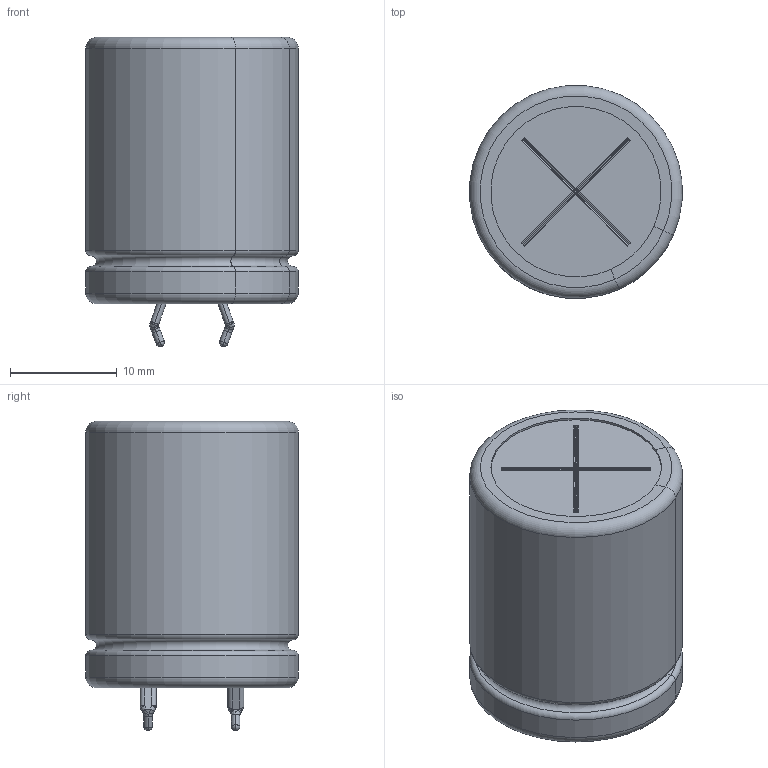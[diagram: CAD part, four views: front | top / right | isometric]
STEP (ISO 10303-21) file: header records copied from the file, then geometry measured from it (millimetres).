
FILE_DESCRIPTION(/* description */ (''),/* implementation_level */ '2;1');
FILE_NAME(/* name */ '20x25_Snap.stp',/* time_stamp */ '2017-09-11T13:40:13+09:00',/* author */ (''),/* organization */ (''),/* preprocessor_version */ 'ST-DEVELOPER v16',/* originating_system */ 'SIEMENS PLM Software NX 11.0',/* authorisation */ '');
FILE_SCHEMA (('AUTOMOTIVE_DESIGN { 1 0 10303 214 3 1 1 1 }'));
Length unit declared in the file: millimetre
Products named in the file (1): 20x25_Snap_0
Bounding box: 19.94 x 19.94 x 29.02 mm (x, y, z)
Volume: 7698.2 mm3; surface area: 5890.8 mm2
Topology: 5 solids, 5 shells, 208 faces, 523 edges, 310 vertices
Faces by surface type: cylinder 76, plane 75, torus 25, sphere 20, bspline 12
Full cylindrical faces by diameter (mm): 4 x2, 19.6 x2
Entity records: 6789 total; most frequent: CARTESIAN_POINT 1265, DIRECTION 1128, ORIENTED_EDGE 988, EDGE_CURVE 494, AXIS2_PLACEMENT_3D 437, VERTEX_POINT 310, LINE 254, VECTOR 254
